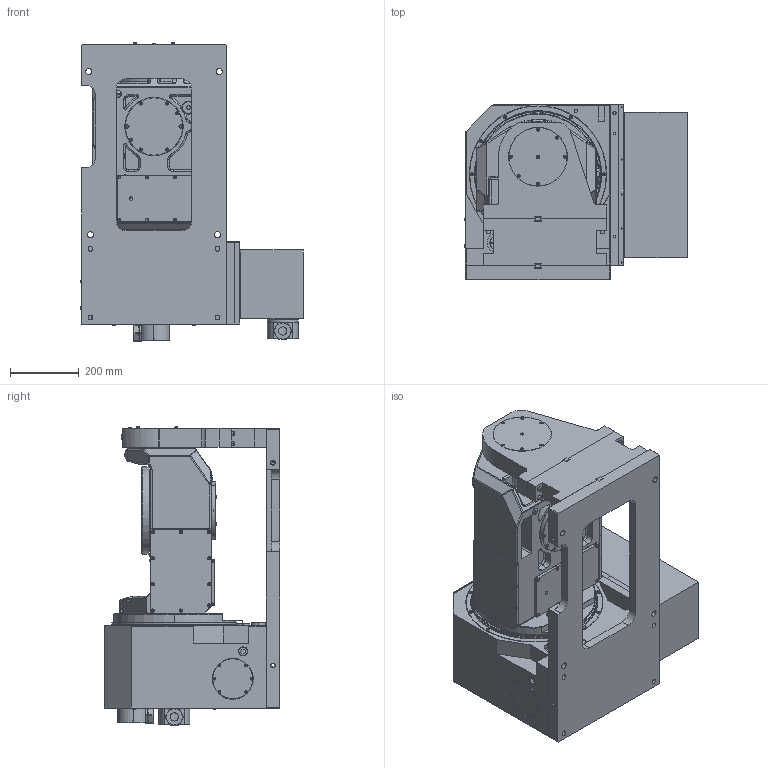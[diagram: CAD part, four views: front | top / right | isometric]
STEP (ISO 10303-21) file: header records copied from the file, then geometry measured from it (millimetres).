
FILE_DESCRIPTION (( 'STEP AP203' ), '1' );
FILE_NAME ('15091566 MDWAT250A-02.STEP', '2020-12-05T05:54:06', ( '' ), ( '' ), 'SwSTEP 2.0', 'SolidWorks 2019', '' );
FILE_SCHEMA (( 'CONFIG_CONTROL_DESIGN' ));
Length unit declared in the file: millimetre
Products named in the file (1): 15091566 MDWAT250A-02
Bounding box: 648.7 x 511.5 x 867.95 mm (x, y, z)
Surface area: 3274895.4 mm2 (no closed solid volume)
Topology: 0 solids, 188 shells, 1689 faces, 5908 edges, 4358 vertices
Faces by surface type: plane 733, cylinder 552, cone 222, torus 106, bspline 40, sphere 36
Entity records: 67193 total; most frequent: CARTESIAN_POINT 15421, DIRECTION 11408, ORIENTED_EDGE 8991, EDGE_CURVE 5897, VERTEX_POINT 4356, AXIS2_PLACEMENT_3D 4157, LINE 3094, VECTOR 3094
